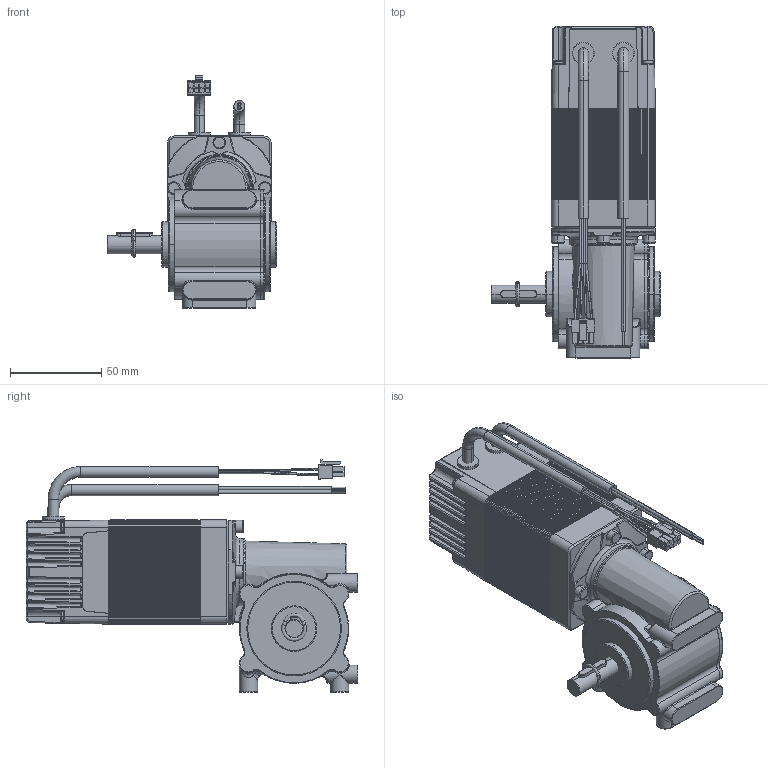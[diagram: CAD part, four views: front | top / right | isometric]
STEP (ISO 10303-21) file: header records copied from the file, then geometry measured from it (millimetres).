
FILE_DESCRIPTION((''),'2;1');
FILE_NAME('ENV_SIMP_STEP_TEMP','2012-10-24T',('VALJBL1'),('CROUZET-AUTOMATISMES'),'PRO/ENGINEER BY PARAMETRIC TECHNOLOGY CORPORATION, 2012090','PRO/ENGINEER BY PARAMETRIC TECHNOLOGY CORPORATION, 2012090','');
FILE_SCHEMA(('CONFIG_CONTROL_DESIGN'));
Products named in the file (1): ENV_SIMP_STEP_TEMP
Bounding box: 93 x 182.05 x 127.71 mm (x, y, z)
Surface area: 105249.3 mm2 (no closed solid volume)
Topology: 0 solids, 154 shells, 2256 faces, 6276 edges, 4058 vertices
Faces by surface type: plane 1007, cylinder 909, torus 132, bspline 120, sphere 49, cone 39
Entity records: 77302 total; most frequent: CARTESIAN_POINT 21795, DIRECTION 12276, ORIENTED_EDGE 9470, EDGE_CURVE 6276, AXIS2_PLACEMENT_3D 4213, VERTEX_POINT 4058, VECTOR 3850, LINE 3850
